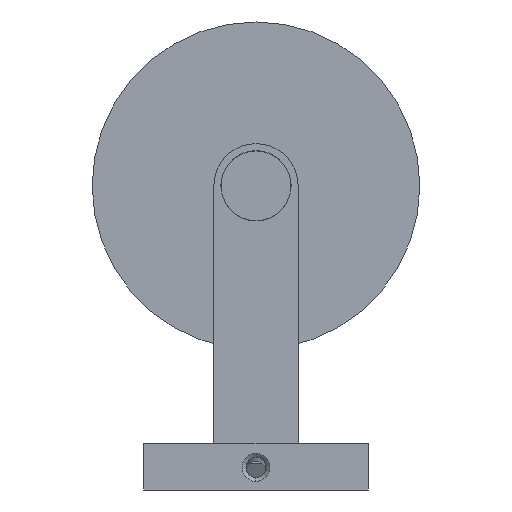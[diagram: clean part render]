
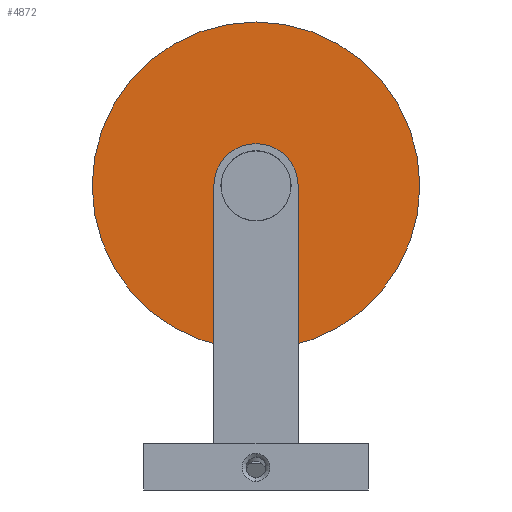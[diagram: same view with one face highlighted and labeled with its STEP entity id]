
A CAD part, front view. The second image highlights one B-rep face of the part: STEP entity #4872.
In plain terms, the highlighted planar face has unit normal (0, -1, 0).
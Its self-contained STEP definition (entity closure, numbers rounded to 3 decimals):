
#96=FACE_BOUND('',#1447,.T.);
#1176=FACE_OUTER_BOUND('',#1446,.T.);
#1446=EDGE_LOOP('',(#3720,#3721));
#1447=EDGE_LOOP('',(#3722,#3723));
#1754=CIRCLE('',#5288,3.35);
#1755=CIRCLE('',#5289,3.35);
#1758=CIRCLE('',#5294,35.);
#1759=CIRCLE('',#5295,35.);
#2082=VERTEX_POINT('',#7733);
#2083=VERTEX_POINT('',#7735);
#2085=VERTEX_POINT('',#7744);
#2086=VERTEX_POINT('',#7746);
#2677=EDGE_CURVE('',#2083,#2082,#1754,.T.);
#2678=EDGE_CURVE('',#2082,#2083,#1755,.T.);
#2683=EDGE_CURVE('',#2085,#2086,#1758,.T.);
#2684=EDGE_CURVE('',#2086,#2085,#1759,.T.);
#3720=ORIENTED_EDGE('',*,*,#2684,.F.);
#3721=ORIENTED_EDGE('',*,*,#2683,.F.);
#3722=ORIENTED_EDGE('',*,*,#2677,.T.);
#3723=ORIENTED_EDGE('',*,*,#2678,.T.);
#4663=PLANE('',#5296);
#4872=ADVANCED_FACE('',(#1176,#96),#4663,.T.);
#5288=AXIS2_PLACEMENT_3D('',#7736,#6199,#6200);
#5289=AXIS2_PLACEMENT_3D('',#7737,#6201,#6202);
#5294=AXIS2_PLACEMENT_3D('',#7747,#6213,#6214);
#5295=AXIS2_PLACEMENT_3D('',#7748,#6215,#6216);
#5296=AXIS2_PLACEMENT_3D('',#7749,#6217,#6218);
#6199=DIRECTION('center_axis',(0.,1.,0.));
#6200=DIRECTION('ref_axis',(0.966,0.,0.26));
#6201=DIRECTION('center_axis',(0.,1.,0.));
#6202=DIRECTION('ref_axis',(0.966,0.,0.26));
#6213=DIRECTION('center_axis',(0.,1.,0.));
#6214=DIRECTION('ref_axis',(-1.,0.,0.));
#6215=DIRECTION('center_axis',(0.,1.,0.));
#6216=DIRECTION('ref_axis',(-1.,0.,0.));
#6217=DIRECTION('center_axis',(0.,-1.,0.));
#6218=DIRECTION('ref_axis',(-1.,0.,0.));
#7733=CARTESIAN_POINT('',(3.235,42.,49.87));
#7735=CARTESIAN_POINT('',(-3.35,42.,49.));
#7736=CARTESIAN_POINT('Origin',(0.,42.,49.));
#7737=CARTESIAN_POINT('Origin',(0.,42.,49.));
#7744=CARTESIAN_POINT('',(0.,42.,84.));
#7746=CARTESIAN_POINT('',(-35.,42.,49.));
#7747=CARTESIAN_POINT('Origin',(0.,42.,49.));
#7748=CARTESIAN_POINT('Origin',(0.,42.,49.));
#7749=CARTESIAN_POINT('Origin',(0.,42.,12.6));
